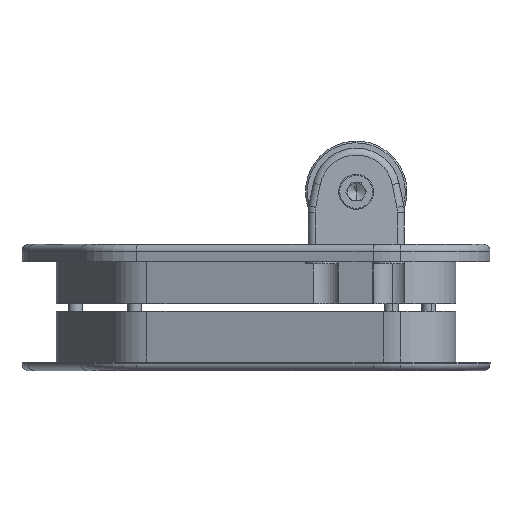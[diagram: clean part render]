
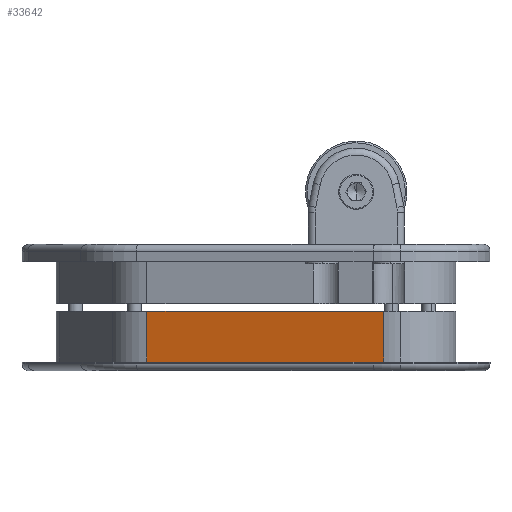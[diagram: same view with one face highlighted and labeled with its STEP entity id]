
A CAD part, left-side view. The second image highlights one B-rep face of the part: STEP entity #33642.
In plain terms, the highlighted planar face has unit normal (-0.952, 0.308, 0) as drawn and (0.951, 0.308, 0) by its records, which use the part's own axes.
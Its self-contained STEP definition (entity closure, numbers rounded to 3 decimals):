
#934 = EDGE_CURVE ( 'NONE', #20896, #6091, #22730, .T. ) ;
#1866 = AXIS2_PLACEMENT_3D ( 'NONE', #32460, #26554, #20474 ) ;
#4199 = CARTESIAN_POINT ( 'NONE',  ( 93.775, 36.138, -2.5 ) ) ;
#6091 = VERTEX_POINT ( 'NONE', #12788 ) ;
#8353 = CARTESIAN_POINT ( 'NONE',  ( 115.631, -31.451, -17. ) ) ;
#8789 = VECTOR ( 'NONE', #38023, 1000. ) ;
#12409 = ORIENTED_EDGE ( 'NONE', *, *, #23014, .F. ) ;
#12788 = CARTESIAN_POINT ( 'NONE',  ( 93.775, 36.138, -17. ) ) ;
#12852 = VECTOR ( 'NONE', #25822, 1000. ) ;
#14715 = VECTOR ( 'NONE', #38691, 1000. ) ;
#17529 = EDGE_CURVE ( 'NONE', #6091, #32375, #25127, .T. ) ;
#17643 = CARTESIAN_POINT ( 'NONE',  ( 115.631, -31.451, -17. ) ) ;
#18232 = CARTESIAN_POINT ( 'NONE',  ( 115.631, -31.451, -2.5 ) ) ;
#19286 = VERTEX_POINT ( 'NONE', #18232 ) ;
#19996 = EDGE_CURVE ( 'NONE', #20896, #19286, #21330, .T. ) ;
#20474 = DIRECTION ( 'NONE',  ( -0.308, 0.951, 0. ) ) ;
#20896 = VERTEX_POINT ( 'NONE', #17643 ) ;
#21164 = CARTESIAN_POINT ( 'NONE',  ( 93.775, 36.138, -17. ) ) ;
#21330 = LINE ( 'NONE', #35142, #12852 ) ;
#21463 = FACE_OUTER_BOUND ( 'NONE', #26613, .T. ) ;
#22730 = LINE ( 'NONE', #8353, #14715 ) ;
#23014 = EDGE_CURVE ( 'NONE', #19286, #32375, #25301, .T. ) ;
#24019 = ORIENTED_EDGE ( 'NONE', *, *, #17529, .T. ) ;
#25127 = LINE ( 'NONE', #21164, #32203 ) ;
#25301 = LINE ( 'NONE', #32656, #8789 ) ;
#25822 = DIRECTION ( 'NONE',  ( 0., 0., 1. ) ) ;
#26554 = DIRECTION ( 'NONE',  ( 0.951, 0.308, 0. ) ) ;
#26613 = EDGE_LOOP ( 'NONE', ( #12409, #29056, #32661, #24019 ) ) ;
#29056 = ORIENTED_EDGE ( 'NONE', *, *, #19996, .F. ) ;
#32203 = VECTOR ( 'NONE', #33529, 1000. ) ;
#32207 = PLANE ( 'NONE',  #1866 ) ;
#32375 = VERTEX_POINT ( 'NONE', #4199 ) ;
#32460 = CARTESIAN_POINT ( 'NONE',  ( 115.631, -31.451, -17. ) ) ;
#32656 = CARTESIAN_POINT ( 'NONE',  ( 95.477, 30.875, -2.5 ) ) ;
#32661 = ORIENTED_EDGE ( 'NONE', *, *, #934, .T. ) ;
#33529 = DIRECTION ( 'NONE',  ( 0., 0., 1. ) ) ;
#33642 = ADVANCED_FACE ( 'NONE', ( #21463 ), #32207, .T. ) ;
#35142 = CARTESIAN_POINT ( 'NONE',  ( 115.631, -31.451, -17. ) ) ;
#38023 = DIRECTION ( 'NONE',  ( -0.308, 0.951, 0. ) ) ;
#38691 = DIRECTION ( 'NONE',  ( -0.308, 0.951, 0. ) ) ;
